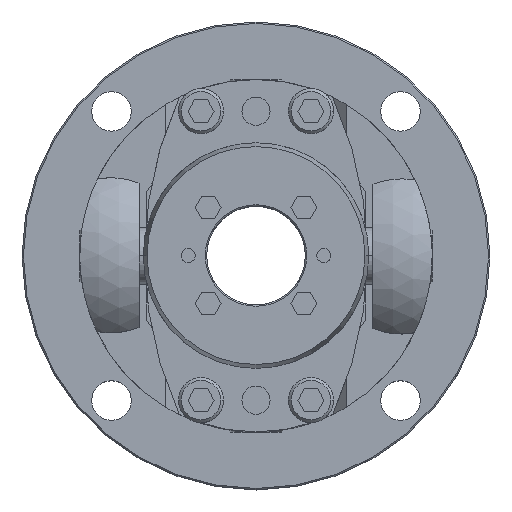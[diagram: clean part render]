
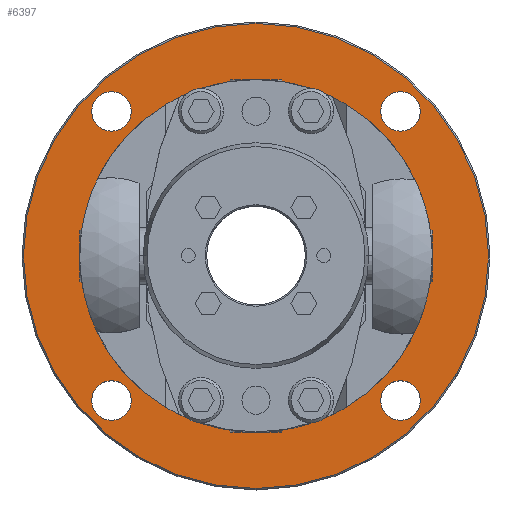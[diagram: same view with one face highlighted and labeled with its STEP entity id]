
A CAD part, top view. The second image highlights one B-rep face of the part: STEP entity #6397.
In plain terms, the highlighted planar face has unit normal (0, 0, 1).
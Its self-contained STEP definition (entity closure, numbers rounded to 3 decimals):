
#1070=CARTESIAN_POINT('',(0.,62.5,-25.0));
#1071=VERTEX_POINT('',#1070);
#1189=CARTESIAN_POINT('',(0.,-62.5,-25.0));
#1190=VERTEX_POINT('',#1189);
#1197=CARTESIAN_POINT('',(0.,0.,-25.0));
#1198=DIRECTION('',(0.0,0.0,-1.0));
#1199=DIRECTION('',(0.0,-1.0,0.0));
#1200=AXIS2_PLACEMENT_3D('',#1197,#1198,#1199);
#1201=CIRCLE('',#1200,62.5);
#1202=EDGE_CURVE('',#1071,#1190,#1201,.T.);
#1393=CARTESIAN_POINT('',(51.265,44.265,-25.0));
#1394=VERTEX_POINT('',#1393);
#1403=CARTESIAN_POINT('',(51.265,58.265,-25.0));
#1404=VERTEX_POINT('',#1403);
#1405=CARTESIAN_POINT('',(51.265,51.265,-25.0));
#1406=DIRECTION('',(0.0,0.0,-1.0));
#1407=DIRECTION('',(0.0,-1.0,0.0));
#1408=AXIS2_PLACEMENT_3D('',#1405,#1406,#1407);
#1409=CIRCLE('',#1408,7.0);
#1410=EDGE_CURVE('',#1404,#1394,#1409,.T.);
#1435=CARTESIAN_POINT('',(51.265,-58.265,-25.0));
#1436=VERTEX_POINT('',#1435);
#1445=CARTESIAN_POINT('',(51.265,-44.265,-25.0));
#1446=VERTEX_POINT('',#1445);
#1447=CARTESIAN_POINT('',(51.265,-51.265,-25.0));
#1448=DIRECTION('',(0.0,0.0,-1.0));
#1449=DIRECTION('',(0.0,-1.0,0.0));
#1450=AXIS2_PLACEMENT_3D('',#1447,#1448,#1449);
#1451=CIRCLE('',#1450,7.0);
#1452=EDGE_CURVE('',#1446,#1436,#1451,.T.);
#1477=CARTESIAN_POINT('',(-51.265,-58.265,-25.0));
#1478=VERTEX_POINT('',#1477);
#1487=CARTESIAN_POINT('',(-51.265,-44.265,-25.0));
#1488=VERTEX_POINT('',#1487);
#1489=CARTESIAN_POINT('',(-51.265,-51.265,-25.0));
#1490=DIRECTION('',(0.0,0.0,-1.0));
#1491=DIRECTION('',(0.0,-1.0,0.0));
#1492=AXIS2_PLACEMENT_3D('',#1489,#1490,#1491);
#1493=CIRCLE('',#1492,7.0);
#1494=EDGE_CURVE('',#1488,#1478,#1493,.T.);
#1519=CARTESIAN_POINT('',(-51.265,44.265,-25.0));
#1520=VERTEX_POINT('',#1519);
#1529=CARTESIAN_POINT('',(-51.265,58.265,-25.0));
#1530=VERTEX_POINT('',#1529);
#1531=CARTESIAN_POINT('',(-51.265,51.265,-25.0));
#1532=DIRECTION('',(0.0,0.0,-1.0));
#1533=DIRECTION('',(0.0,-1.0,0.0));
#1534=AXIS2_PLACEMENT_3D('',#1531,#1532,#1533);
#1535=CIRCLE('',#1534,7.0);
#1536=EDGE_CURVE('',#1530,#1520,#1535,.T.);
#2105=CARTESIAN_POINT('',(0.,82.5,-25.0));
#2106=VERTEX_POINT('',#2105);
#2113=CARTESIAN_POINT('',(0.,-82.5,-25.0));
#2114=VERTEX_POINT('',#2113);
#2115=CARTESIAN_POINT('',(0.,0.,-25.0));
#2116=DIRECTION('',(0.0,0.0,-1.0));
#2117=DIRECTION('',(0.0,1.0,0.0));
#2118=AXIS2_PLACEMENT_3D('',#2115,#2116,#2117);
#2119=CIRCLE('',#2118,82.5);
#2120=EDGE_CURVE('',#2106,#2114,#2119,.T.);
#6316=CARTESIAN_POINT('',(0.,0.,-25.0));
#6317=DIRECTION('',(0.0,0.0,-1.0));
#6318=DIRECTION('',(0.0,1.0,0.0));
#6319=AXIS2_PLACEMENT_3D('',#6316,#6317,#6318);
#6320=CIRCLE('',#6319,82.5);
#6321=EDGE_CURVE('',#2114,#2106,#6320,.T.);
#6338=CARTESIAN_POINT('',(0.,-7.545,-25.0));
#6339=DIRECTION('',(0.0,0.0,1.0));
#6340=DIRECTION('',(0.0,-1.0,0.0));
#6341=AXIS2_PLACEMENT_3D('',#6338,#6339,#6340);
#6342=PLANE('',#6341);
#6343=ORIENTED_EDGE('',*,*,#6321,.F.);
#6344=ORIENTED_EDGE('',*,*,#2120,.F.);
#6345=EDGE_LOOP('',(#6343,#6344));
#6346=FACE_OUTER_BOUND('',#6345,.T.);
#6347=ORIENTED_EDGE('',*,*,#1202,.T.);
#6348=CARTESIAN_POINT('',(0.,0.,-25.0));
#6349=DIRECTION('',(0.0,0.0,-1.0));
#6350=DIRECTION('',(0.0,-1.0,0.0));
#6351=AXIS2_PLACEMENT_3D('',#6348,#6349,#6350);
#6352=CIRCLE('',#6351,62.5);
#6353=EDGE_CURVE('',#1190,#1071,#6352,.T.);
#6354=ORIENTED_EDGE('',*,*,#6353,.T.);
#6355=EDGE_LOOP('',(#6347,#6354));
#6356=FACE_BOUND('',#6355,.T.);
#6357=ORIENTED_EDGE('',*,*,#1410,.T.);
#6358=CARTESIAN_POINT('',(51.265,51.265,-25.0));
#6359=DIRECTION('',(0.0,0.0,-1.0));
#6360=DIRECTION('',(0.0,-1.0,0.0));
#6361=AXIS2_PLACEMENT_3D('',#6358,#6359,#6360);
#6362=CIRCLE('',#6361,7.0);
#6363=EDGE_CURVE('',#1394,#1404,#6362,.T.);
#6364=ORIENTED_EDGE('',*,*,#6363,.T.);
#6365=EDGE_LOOP('',(#6357,#6364));
#6366=FACE_BOUND('',#6365,.T.);
#6367=ORIENTED_EDGE('',*,*,#1452,.T.);
#6368=CARTESIAN_POINT('',(51.265,-51.265,-25.0));
#6369=DIRECTION('',(0.0,0.0,-1.0));
#6370=DIRECTION('',(0.0,-1.0,0.0));
#6371=AXIS2_PLACEMENT_3D('',#6368,#6369,#6370);
#6372=CIRCLE('',#6371,7.0);
#6373=EDGE_CURVE('',#1436,#1446,#6372,.T.);
#6374=ORIENTED_EDGE('',*,*,#6373,.T.);
#6375=EDGE_LOOP('',(#6367,#6374));
#6376=FACE_BOUND('',#6375,.T.);
#6377=ORIENTED_EDGE('',*,*,#1494,.T.);
#6378=CARTESIAN_POINT('',(-51.265,-51.265,-25.0));
#6379=DIRECTION('',(0.0,0.0,-1.0));
#6380=DIRECTION('',(0.0,-1.0,0.0));
#6381=AXIS2_PLACEMENT_3D('',#6378,#6379,#6380);
#6382=CIRCLE('',#6381,7.0);
#6383=EDGE_CURVE('',#1478,#1488,#6382,.T.);
#6384=ORIENTED_EDGE('',*,*,#6383,.T.);
#6385=EDGE_LOOP('',(#6377,#6384));
#6386=FACE_BOUND('',#6385,.T.);
#6387=ORIENTED_EDGE('',*,*,#1536,.T.);
#6388=CARTESIAN_POINT('',(-51.265,51.265,-25.0));
#6389=DIRECTION('',(0.0,0.0,-1.0));
#6390=DIRECTION('',(0.0,-1.0,0.0));
#6391=AXIS2_PLACEMENT_3D('',#6388,#6389,#6390);
#6392=CIRCLE('',#6391,7.0);
#6393=EDGE_CURVE('',#1520,#1530,#6392,.T.);
#6394=ORIENTED_EDGE('',*,*,#6393,.T.);
#6395=EDGE_LOOP('',(#6387,#6394));
#6396=FACE_BOUND('',#6395,.T.);
#6397=ADVANCED_FACE('',(#6346,#6356,#6366,#6376,#6386,#6396),#6342,.T.);
